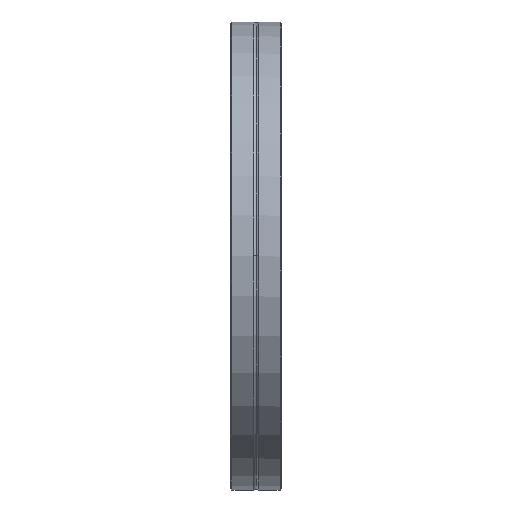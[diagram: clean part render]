
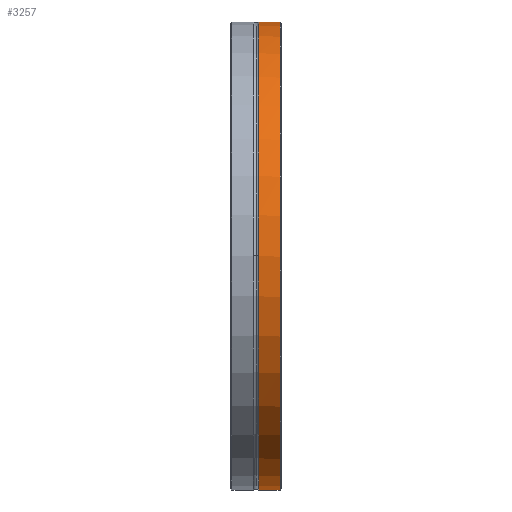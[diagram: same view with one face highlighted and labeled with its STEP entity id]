
A CAD part, top view. The second image highlights one B-rep face of the part: STEP entity #3257.
In plain terms, the highlighted cylindrical face has radius 101.25 mm (diameter 202.5 mm), a partial arc.
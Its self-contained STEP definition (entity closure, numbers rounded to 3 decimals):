
#3160=CARTESIAN_POINT('',(21.4,-101.25,0.));
#3161=VERTEX_POINT('',#3160);
#3200=CARTESIAN_POINT('',(11.,0.,0.0));
#3201=DIRECTION('',(1.0,0.,0.0));
#3202=DIRECTION('',(0.0,1.0,0.0));
#3203=AXIS2_PLACEMENT_3D('',#3200,#3201,#3202);
#3204=CYLINDRICAL_SURFACE('',#3203,101.25);
#3205=CARTESIAN_POINT('',(12.2,101.25,0.));
#3206=VERTEX_POINT('',#3205);
#3207=CARTESIAN_POINT('',(21.2,101.25,0.));
#3208=VERTEX_POINT('',#3207);
#3209=CARTESIAN_POINT('',(12.2,101.25,0.));
#3210=DIRECTION('',(1.0,0.0,0.0));
#3211=VECTOR('',#3210,9.);
#3212=LINE('',#3209,#3211);
#3213=EDGE_CURVE('',#3206,#3208,#3212,.T.);
#3214=ORIENTED_EDGE('',*,*,#3213,.F.);
#3215=CARTESIAN_POINT('',(12.2,0.,101.25));
#3216=VERTEX_POINT('',#3215);
#3217=CARTESIAN_POINT('',(12.2,0.,0.0));
#3218=DIRECTION('',(1.0,0.0,0.0));
#3219=DIRECTION('',(0.0,1.0,0.0));
#3220=AXIS2_PLACEMENT_3D('',#3217,#3218,#3219);
#3221=CIRCLE('',#3220,101.25);
#3222=EDGE_CURVE('',#3206,#3216,#3221,.T.);
#3223=ORIENTED_EDGE('',*,*,#3222,.T.);
#3224=CARTESIAN_POINT('',(12.2,-101.25,0.));
#3225=VERTEX_POINT('',#3224);
#3226=CARTESIAN_POINT('',(12.2,0.,0.0));
#3227=DIRECTION('',(1.0,0.0,0.0));
#3228=DIRECTION('',(0.0,1.0,0.0));
#3229=AXIS2_PLACEMENT_3D('',#3226,#3227,#3228);
#3230=CIRCLE('',#3229,101.25);
#3231=EDGE_CURVE('',#3216,#3225,#3230,.T.);
#3232=ORIENTED_EDGE('',*,*,#3231,.T.);
#3233=CARTESIAN_POINT('',(21.4,-101.25,0.));
#3234=DIRECTION('',(-1.0,0.0,0.0));
#3235=VECTOR('',#3234,9.2);
#3236=LINE('',#3233,#3235);
#3237=EDGE_CURVE('',#3161,#3225,#3236,.T.);
#3238=ORIENTED_EDGE('',*,*,#3237,.F.);
#3239=CARTESIAN_POINT('',(21.4,101.244,1.077));
#3240=VERTEX_POINT('',#3239);
#3241=CARTESIAN_POINT('',(21.4,0.,0.0));
#3242=DIRECTION('',(1.0,0.0,0.0));
#3243=DIRECTION('',(0.0,-1.0,0.0));
#3244=AXIS2_PLACEMENT_3D('',#3241,#3242,#3243);
#3245=CIRCLE('',#3244,101.25);
#3246=EDGE_CURVE('',#3240,#3161,#3245,.T.);
#3247=ORIENTED_EDGE('',*,*,#3246,.F.);
#3248=CARTESIAN_POINT('',(21.4,101.244,1.077));
#3249=CARTESIAN_POINT('',(21.266,101.248,0.728));
#3250=CARTESIAN_POINT('',(21.2,101.25,0.353));
#3251=CARTESIAN_POINT('',(21.2,101.25,0.));
#3252=B_SPLINE_CURVE_WITH_KNOTS('',3,(#3248,#3249,#3250,#3251),.UNSPECIFIED.,.F.,.U.,(4,4),(1.25,1.356),.UNSPECIFIED.);
#3253=EDGE_CURVE('',#3240,#3208,#3252,.T.);
#3254=ORIENTED_EDGE('',*,*,#3253,.T.);
#3255=EDGE_LOOP('',(#3214,#3223,#3232,#3238,#3247,#3254));
#3256=FACE_OUTER_BOUND('',#3255,.T.);
#3257=ADVANCED_FACE('',(#3256),#3204,.T.);
